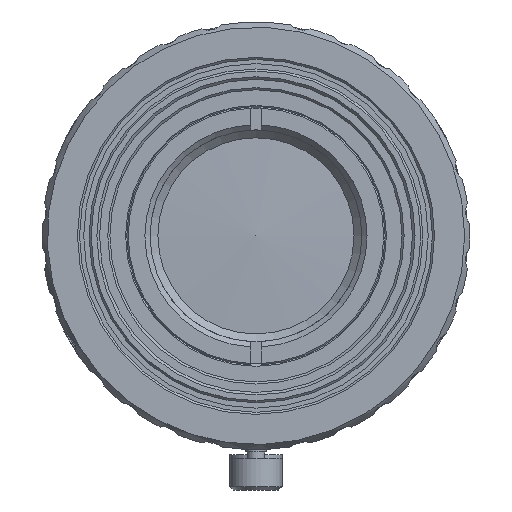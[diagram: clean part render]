
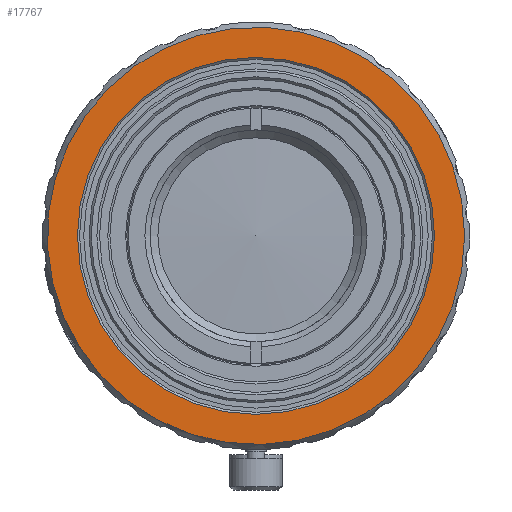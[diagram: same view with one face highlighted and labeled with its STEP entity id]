
A CAD part, front view. The second image highlights one B-rep face of the part: STEP entity #17767.
In plain terms, the highlighted planar face has unit normal (0, -1, 0).
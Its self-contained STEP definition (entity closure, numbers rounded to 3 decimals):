
#584=PLANE('',#18802);
#979=CIRCLE('',#18803,17.112);
#980=CIRCLE('',#18804,20.);
#2739=ORIENTED_EDGE('',*,*,#5465,.F.);
#2740=ORIENTED_EDGE('',*,*,#5466,.T.);
#5465=EDGE_CURVE('',#6968,#6968,#979,.T.);
#5466=EDGE_CURVE('',#6969,#6969,#980,.T.);
#6968=VERTEX_POINT('',#25832);
#6969=VERTEX_POINT('',#25834);
#9722=EDGE_LOOP('',(#2739));
#9723=EDGE_LOOP('',(#2740));
#10848=FACE_BOUND('',#9722,.T.);
#10849=FACE_BOUND('',#9723,.T.);
#17767=ADVANCED_FACE('',(#10848,#10849),#584,.T.);
#18802=AXIS2_PLACEMENT_3D('',#25830,#21162,#21163);
#18803=AXIS2_PLACEMENT_3D('',#25831,#21164,#21165);
#18804=AXIS2_PLACEMENT_3D('',#25833,#21166,#21167);
#21162=DIRECTION('',(0.,-1.,0.));
#21163=DIRECTION('',(1.,0.,0.));
#21164=DIRECTION('',(0.,-1.,0.));
#21165=DIRECTION('',(1.,0.,0.));
#21166=DIRECTION('',(0.,-1.,0.));
#21167=DIRECTION('',(1.,0.,0.));
#25830=CARTESIAN_POINT('',(0.,-89.028,17.112));
#25831=CARTESIAN_POINT('',(0.,-89.028,0.));
#25832=CARTESIAN_POINT('',(17.112,-89.028,0.));
#25833=CARTESIAN_POINT('',(0.,-89.028,0.));
#25834=CARTESIAN_POINT('',(20.,-89.028,0.));
